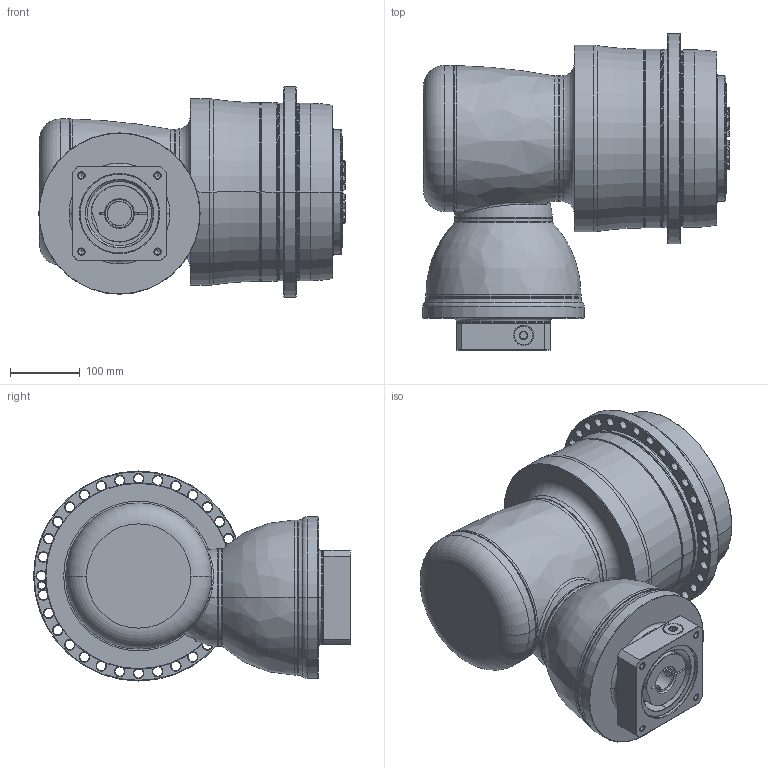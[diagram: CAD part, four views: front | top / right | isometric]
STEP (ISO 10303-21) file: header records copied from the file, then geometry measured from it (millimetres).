
FILE_DESCRIPTION((''),'2;1');
FILE_NAME('APCK255_3ST_35-P0409800201_ASM','2018-05-14T',('d01226'),(''),'PRO/ENGINEER BY PARAMETRIC TECHNOLOGY CORPORATION, 2008410','PRO/ENGINEER BY PARAMETRIC TECHNOLOGY CORPORATION, 2008410','');
FILE_SCHEMA(('CONFIG_CONTROL_DESIGN'));
Length unit declared in the file: millimetre
Products named in the file (13): P1008600002; P1832700001; P0278701003; P0359770103; P1211700001; P1315600001; P1007601001; P1318610101; P0409800201; P0503800012; P0912601001; 21711422019; APCK255_3ST_35-P0409800201_ASM
Assembly tree (12 placements, depth 2):
  APCK255_3ST_35-P0409800201_ASM
    P1008600002
    P1832700001
    P0278701003
    P0359770103
    P1211700001
    P1315600001
    P1007601001
    P1318610101
    P0409800201
    P0503800012
    P0912601001
    21711422019
Bounding box: 440.6 x 455.5 x 302 mm (x, y, z)
Volume: 22772338.8 mm3; surface area: 1381819.6 mm2
Topology: 13 solids, 25 shells, 813 faces, 1947 edges, 1184 vertices
Faces by surface type: cone 272, cylinder 241, plane 139, torus 126, bspline 33, sphere 2
Entity records: 30868 total; most frequent: CARTESIAN_POINT 11422, DIRECTION 4363, ORIENTED_EDGE 3816, EDGE_CURVE 1933, AXIS2_PLACEMENT_3D 1912, VERTEX_POINT 1184, CIRCLE 1095, EDGE_LOOP 935
